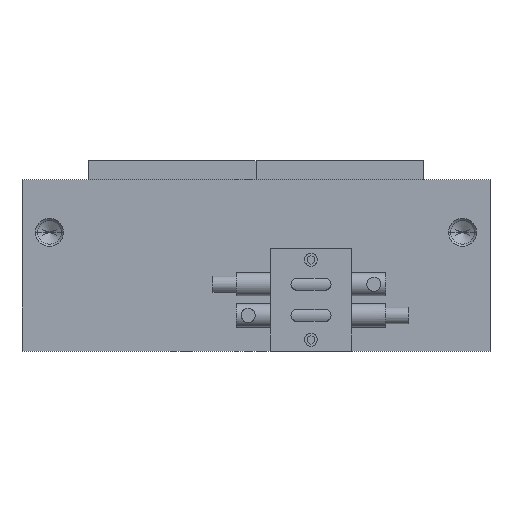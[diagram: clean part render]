
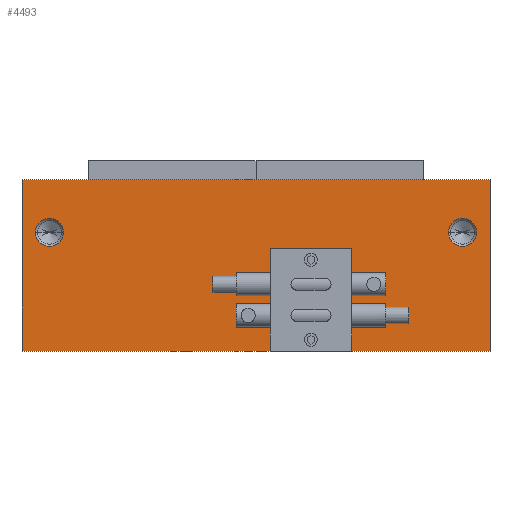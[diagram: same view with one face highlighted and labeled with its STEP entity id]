
A CAD part, top view. The second image highlights one B-rep face of the part: STEP entity #4493.
In plain terms, the highlighted planar face has unit normal (0, 0, 1).
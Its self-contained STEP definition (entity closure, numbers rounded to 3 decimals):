
#12 = CIRCLE ( 'NONE', #4985, 2.4 ) ;
#133 = VERTEX_POINT ( 'NONE', #4303 ) ;
#214 = CARTESIAN_POINT ( 'NONE',  ( 40.005, 14.669, 11.113 ) ) ;
#267 = CARTESIAN_POINT ( 'NONE',  ( 40.005, 14.669, 11.113 ) ) ;
#269 = AXIS2_PLACEMENT_3D ( 'NONE', #5386, #2703, #5819 ) ;
#345 = CARTESIAN_POINT ( 'NONE',  ( 35.306, 5.651, 11.113 ) ) ;
#349 = CARTESIAN_POINT ( 'NONE',  ( 40.005, -14.669, 11.113 ) ) ;
#360 = FACE_OUTER_BOUND ( 'NONE', #2008, .T. ) ;
#375 = EDGE_CURVE ( 'NONE', #1498, #1011, #3251, .T. ) ;
#643 = CARTESIAN_POINT ( 'NONE',  ( -32.906, 5.652, 11.113 ) ) ;
#667 = CARTESIAN_POINT ( 'NONE',  ( -40.005, 14.669, 11.113 ) ) ;
#780 = DIRECTION ( 'NONE',  ( 0., 1., 0. ) ) ;
#782 = VECTOR ( 'NONE', #2049, 1000. ) ;
#837 = EDGE_CURVE ( 'NONE', #1019, #5198, #4981, .T. ) ;
#1011 = VERTEX_POINT ( 'NONE', #643 ) ;
#1019 = VERTEX_POINT ( 'NONE', #667 ) ;
#1068 = EDGE_CURVE ( 'NONE', #2795, #1019, #5451, .T. ) ;
#1330 = VECTOR ( 'NONE', #3528, 1000. ) ;
#1380 = VECTOR ( 'NONE', #3837, 1000. ) ;
#1435 = ORIENTED_EDGE ( 'NONE', *, *, #1068, .T. ) ;
#1498 = VERTEX_POINT ( 'NONE', #2561 ) ;
#1551 = FACE_BOUND ( 'NONE', #4148, .T. ) ;
#1639 = CARTESIAN_POINT ( 'NONE',  ( -35.306, 5.652, 11.113 ) ) ;
#2008 = EDGE_LOOP ( 'NONE', ( #5245, #3431, #5787, #1435 ) ) ;
#2049 = DIRECTION ( 'NONE',  ( -1., 0., 0. ) ) ;
#2102 = DIRECTION ( 'NONE',  ( 0., 1., 0. ) ) ;
#2157 = EDGE_CURVE ( 'NONE', #133, #3453, #4730, .T. ) ;
#2221 = CARTESIAN_POINT ( 'NONE',  ( 40.005, 14.669, 11.113 ) ) ;
#2335 = CARTESIAN_POINT ( 'NONE',  ( 35.306, 5.651, 11.113 ) ) ;
#2368 = EDGE_CURVE ( 'NONE', #1011, #1498, #12, .T. ) ;
#2536 = CARTESIAN_POINT ( 'NONE',  ( 40.005, -14.669, 11.113 ) ) ;
#2561 = CARTESIAN_POINT ( 'NONE',  ( -37.706, 5.652, 11.113 ) ) ;
#2578 = ORIENTED_EDGE ( 'NONE', *, *, #2157, .T. ) ;
#2648 = DIRECTION ( 'NONE',  ( 0., -1., 0. ) ) ;
#2677 = DIRECTION ( 'NONE',  ( 0., 1., 0. ) ) ;
#2703 = DIRECTION ( 'NONE',  ( 0., 0., -1. ) ) ;
#2794 = DIRECTION ( 'NONE',  ( 0., 1., 0. ) ) ;
#2795 = VERTEX_POINT ( 'NONE', #214 ) ;
#3097 = EDGE_CURVE ( 'NONE', #3453, #133, #4105, .T. ) ;
#3119 = CARTESIAN_POINT ( 'NONE',  ( 37.706, 5.651, 11.113 ) ) ;
#3247 = AXIS2_PLACEMENT_3D ( 'NONE', #345, #3519, #780 ) ;
#3251 = CIRCLE ( 'NONE', #269, 2.4 ) ;
#3278 = AXIS2_PLACEMENT_3D ( 'NONE', #2221, #5364, #2677 ) ;
#3399 = EDGE_CURVE ( 'NONE', #4365, #5198, #4936, .T. ) ;
#3431 = ORIENTED_EDGE ( 'NONE', *, *, #3399, .F. ) ;
#3453 = VERTEX_POINT ( 'NONE', #3119 ) ;
#3503 = ORIENTED_EDGE ( 'NONE', *, *, #3097, .T. ) ;
#3519 = DIRECTION ( 'NONE',  ( 0., 0., -1. ) ) ;
#3528 = DIRECTION ( 'NONE',  ( -1., 0., 0. ) ) ;
#3565 = PLANE ( 'NONE',  #3278 ) ;
#3837 = DIRECTION ( 'NONE',  ( 0., -1., 0. ) ) ;
#3917 = ORIENTED_EDGE ( 'NONE', *, *, #2368, .T. ) ;
#3968 = FACE_BOUND ( 'NONE', #4009, .T. ) ;
#4009 = EDGE_LOOP ( 'NONE', ( #3917, #5104 ) ) ;
#4105 = CIRCLE ( 'NONE', #5543, 2.4 ) ;
#4148 = EDGE_LOOP ( 'NONE', ( #3503, #2578 ) ) ;
#4253 = LINE ( 'NONE', #5351, #4543 ) ;
#4303 = CARTESIAN_POINT ( 'NONE',  ( 32.906, 5.651, 11.113 ) ) ;
#4365 = VERTEX_POINT ( 'NONE', #2536 ) ;
#4468 = EDGE_CURVE ( 'NONE', #2795, #4365, #4253, .T. ) ;
#4493 = ADVANCED_FACE ( 'NONE', ( #1551, #3968, #360 ), #3565, .F. ) ;
#4543 = VECTOR ( 'NONE', #2648, 1000. ) ;
#4730 = CIRCLE ( 'NONE', #3247, 2.4 ) ;
#4785 = DIRECTION ( 'NONE',  ( 0., 0., -1. ) ) ;
#4936 = LINE ( 'NONE', #349, #1330 ) ;
#4981 = LINE ( 'NONE', #5187, #1380 ) ;
#4985 = AXIS2_PLACEMENT_3D ( 'NONE', #1639, #4785, #2102 ) ;
#5104 = ORIENTED_EDGE ( 'NONE', *, *, #375, .T. ) ;
#5187 = CARTESIAN_POINT ( 'NONE',  ( -40.005, 14.669, 11.113 ) ) ;
#5198 = VERTEX_POINT ( 'NONE', #5759 ) ;
#5245 = ORIENTED_EDGE ( 'NONE', *, *, #837, .T. ) ;
#5351 = CARTESIAN_POINT ( 'NONE',  ( 40.005, 14.669, 11.113 ) ) ;
#5364 = DIRECTION ( 'NONE',  ( 0., 0., -1. ) ) ;
#5386 = CARTESIAN_POINT ( 'NONE',  ( -35.306, 5.652, 11.113 ) ) ;
#5451 = LINE ( 'NONE', #267, #782 ) ;
#5478 = DIRECTION ( 'NONE',  ( 0., 0., -1. ) ) ;
#5543 = AXIS2_PLACEMENT_3D ( 'NONE', #2335, #5478, #2794 ) ;
#5759 = CARTESIAN_POINT ( 'NONE',  ( -40.005, -14.669, 11.113 ) ) ;
#5787 = ORIENTED_EDGE ( 'NONE', *, *, #4468, .F. ) ;
#5819 = DIRECTION ( 'NONE',  ( 0., 1., 0. ) ) ;
